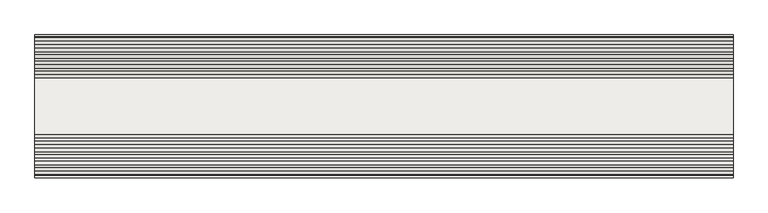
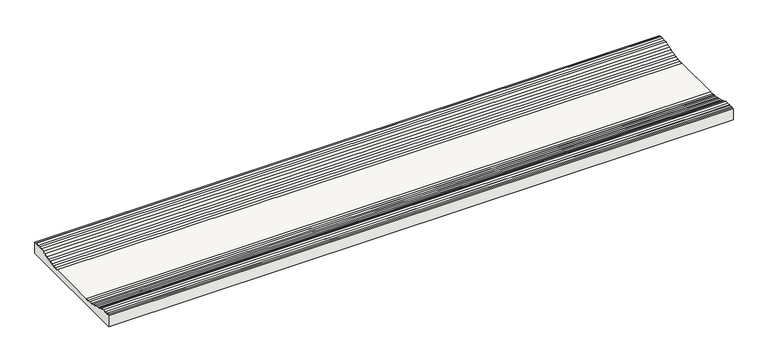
"""IFC4 building model written with IfcOpenShell, lengths in millimetres: slab geometry, ROSA GRES_204 : Pieza 204_Indugres_Indubeige_Tecno."""

from ifc_helpers import new_model, si_unit, point, frame, frame_2d, origin, place, context, project, spatial, polyline, circle_curve, trimmed, segment, composite_curve, outline, extrude, source, transform, mapped, element, save


def slab_ef830f01(model_context):
    return source(origin(), model_context, "Body", "SweptSolid", [
        extrude(outline(composite_curve([segment(polyline([(0.0, 0.0), (-250.0, 0.0), (-250.0, 22.8672484), (-246.5165615, 22.8672484)]), True, "CONTINUOUS"), segment(trimmed(circle_curve(frame_2d((-246.5165615, 24.9459193)), 2.078671), [point((-246.5165615, 22.8672484))], [point((-244.6066559, 24.1254722))], True, "CARTESIAN"), True, "CONTINUOUS"), segment(trimmed(circle_curve(frame_2d((-241.5227559, 27.2443435)), 4.3860914), [point((-244.6066559, 24.1254722))], [point((-238.5231465, 24.0443215))], True, "CARTESIAN"), True, "CONTINUOUS"), segment(trimmed(circle_curve(frame_2d((-235.5165615, 27.2619892)), 4.4037415), [point((-238.5231465, 24.0443215))], [point((-232.5161808, 24.0385354))], True, "CARTESIAN"), True, "CONTINUOUS"), segment(trimmed(circle_curve(frame_2d((-229.5227559, 27.2443435)), 4.3860914), [point((-232.5161808, 24.0385354))], [point((-226.4518445, 24.1126825))], True, "CARTESIAN"), True, "CONTINUOUS"), segment(trimmed(circle_curve(frame_2d((-222.4126485, 25.8222711)), 4.3860914), [point((-226.4518445, 24.1126825))], [point((-220.9070916, 21.702672))], True, "CARTESIAN"), True, "CONTINUOUS"), segment(trimmed(circle_curve(frame_2d((-217.0089888, 23.7132919)), 4.3860914), [point((-220.9070916, 21.702672))], [point((-215.3259087, 19.6629784))], True, "CARTESIAN"), True, "CONTINUOUS"), segment(trimmed(circle_curve(frame_2d((-211.4655295, 21.7451095)), 4.3860914), [point((-215.3259087, 19.6629784))], [point((-209.593873, 17.7784107))], True, "CARTESIAN"), True, "CONTINUOUS"), segment(trimmed(circle_curve(frame_2d((-205.8934032, 20.1330489)), 4.3860914), [point((-209.593873, 17.7784107))], [point((-203.853023, 16.2504407))], True, "CARTESIAN"), True, "CONTINUOUS"), segment(trimmed(circle_curve(frame_2d((-200.2085503, 18.690854)), 4.3860914), [point((-203.853023, 16.2504407))], [point((-197.9613895, 14.9241491))], True, "CARTESIAN"), True, "CONTINUOUS"), segment(trimmed(circle_curve(frame_2d((-194.4503067, 17.5528551)), 4.3860914), [point((-197.9613895, 14.9241491))], [point((-192.1240285, 13.8344915))], True, "CARTESIAN"), True, "CONTINUOUS"), segment(trimmed(circle_curve(frame_2d((-188.6900903, 16.563203)), 4.3860914), [point((-192.1240285, 13.8344915))], [point((-186.1425933, 12.9927609))], True, "CARTESIAN"), True, "CONTINUOUS"), segment(trimmed(circle_curve(frame_2d((-182.8453461, 15.8851576)), 4.3860914), [point((-186.1425933, 12.9927609))], [point((-180.2419212, 12.3552884))], True, "CARTESIAN"), True, "CONTINUOUS"), segment(trimmed(circle_curve(frame_2d((-177.0588098, 15.372837)), 4.3860914), [point((-180.2419212, 12.3552884))], [point((-174.3413989, 11.9299493))], True, "CARTESIAN"), True, "CONTINUOUS"), segment(polyline([(-174.3413989, 11.9299493), (-75.6586011, 11.9299493)]), True, "CONTINUOUS"), segment(trimmed(circle_curve(frame_2d((-72.9411902, 15.372837)), 4.3860914), [point((-75.6586011, 11.9299493))], [point((-69.7580788, 12.3552884))], True, "CARTESIAN"), True, "CONTINUOUS"), segment(trimmed(circle_curve(frame_2d((-67.1546539, 15.8851576)), 4.3860914), [point((-69.7580788, 12.3552884))], [point((-63.8574067, 12.9927609))], True, "CARTESIAN"), True, "CONTINUOUS"), segment(trimmed(circle_curve(frame_2d((-61.3099097, 16.563203)), 4.3860914), [point((-63.8574067, 12.9927609))], [point((-57.8759715, 13.8344915))], True, "CARTESIAN"), True, "CONTINUOUS"), segment(trimmed(circle_curve(frame_2d((-55.5496933, 17.5528551)), 4.3860914), [point((-57.8759715, 13.8344915))], [point((-52.0386105, 14.9241491))], True, "CARTESIAN"), True, "CONTINUOUS"), segment(trimmed(circle_curve(frame_2d((-49.7914497, 18.690854)), 4.3860914), [point((-52.0386105, 14.9241491))], [point((-46.146977, 16.2504407))], True, "CARTESIAN"), True, "CONTINUOUS"), segment(trimmed(circle_curve(frame_2d((-44.1065968, 20.1330489)), 4.3860914), [point((-46.146977, 16.2504407))], [point((-40.406127, 17.7784107))], True, "CARTESIAN"), True, "CONTINUOUS"), segment(trimmed(circle_curve(frame_2d((-38.5344705, 21.7451095)), 4.3860914), [point((-40.406127, 17.7784107))], [point((-34.6740913, 19.6629784))], True, "CARTESIAN"), True, "CONTINUOUS"), segment(trimmed(circle_curve(frame_2d((-32.9910112, 23.7132919)), 4.3860914), [point((-34.6740913, 19.6629784))], [point((-29.0929084, 21.702672))], True, "CARTESIAN"), True, "CONTINUOUS"), segment(trimmed(circle_curve(frame_2d((-27.5873515, 25.8222711)), 4.3860914), [point((-29.0929084, 21.702672))], [point((-23.5481555, 24.1126825))], True, "CARTESIAN"), True, "CONTINUOUS"), segment(trimmed(circle_curve(frame_2d((-20.4772441, 27.2443435)), 4.3860914), [point((-23.5481555, 24.1126825))], [point((-17.4838192, 24.0385354))], True, "CARTESIAN"), True, "CONTINUOUS"), segment(trimmed(circle_curve(frame_2d((-14.4834385, 27.2619892)), 4.4037415), [point((-17.4838192, 24.0385354))], [point((-11.4768535, 24.0443215))], True, "CARTESIAN"), True, "CONTINUOUS"), segment(trimmed(circle_curve(frame_2d((-8.4772441, 27.2443435)), 4.3860914), [point((-11.4768535, 24.0443215))], [point((-5.3933441, 24.1254722))], True, "CARTESIAN"), True, "CONTINUOUS"), segment(trimmed(circle_curve(frame_2d((-3.4834385, 24.9459193)), 2.078671), [point((-5.3933441, 24.1254722))], [point((-3.4834385, 22.8672484))], True, "CARTESIAN"), True, "CONTINUOUS"), segment(polyline([(-3.4834385, 22.8672484), (0.0, 22.8672484), (0.0, 0.0)]), True, "CONTINUOUS")], self_intersect=False)), frame((0.0, 0.0, 0.0), z_axis=(1.0, 0.0, 0.0), x_axis=(0.0, 1.0, 0.0)), (0.0, 0.0, 1.0), 1219.9734114),
    ])


if __name__ == "__main__":
    model = new_model("IFC4")
    model_context = context("Model", 3, world=origin())
    ifc_project = project(units=[si_unit("LENGTHUNIT", "METRE", prefix="MILLI")], contexts=[model_context])
    site = spatial("IfcSite", under=ifc_project)
    building = spatial("IfcBuilding", under=site)
    placement = place(None, origin())
    slab_shape = slab_ef830f01(model_context)
    element("IfcSlab", 1, ObjectType="ROSA GRES_204 : Pieza 204_Indugres_Indubeige_Tecno", at=placement, inside=building, context=model_context, shape_type="MappedRepresentation", body=[
        mapped(slab_shape, transform((0.0, 0.0, 0.0), x_axis=(1.0, 0.0, 0.0), y_axis=(0.0, 1.0, 0.0), z_axis=(0.0, 0.0, 1.0))),
    ])
    save(model, "model.ifc")
